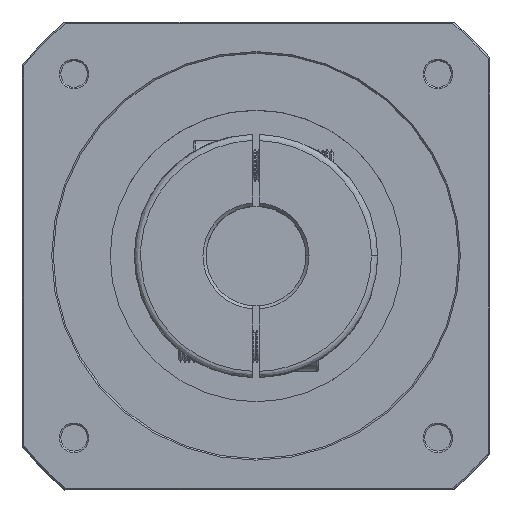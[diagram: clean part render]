
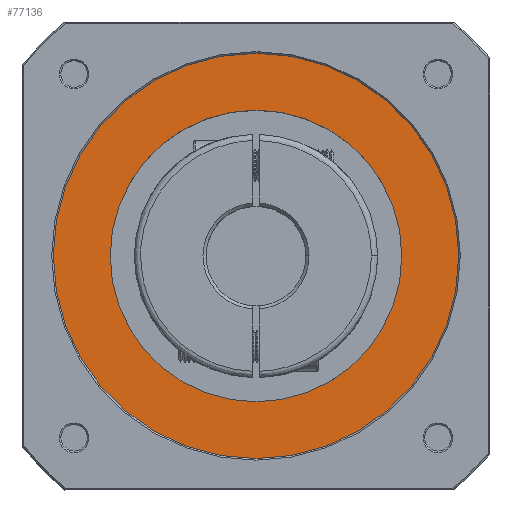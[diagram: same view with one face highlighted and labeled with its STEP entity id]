
A CAD part, top view. The second image highlights one B-rep face of the part: STEP entity #77136.
In plain terms, the highlighted planar face has unit normal (0, 0, -1).
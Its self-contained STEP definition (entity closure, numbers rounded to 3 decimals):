
#1294 = CARTESIAN_POINT ( 'NONE',  ( 0., 0., 285.5 ) ) ;
#2503 = CARTESIAN_POINT ( 'NONE',  ( 0., 0., 285.5 ) ) ;
#3344 = CARTESIAN_POINT ( 'NONE',  ( 46.75, 0., 285.5 ) ) ;
#6604 = PLANE ( 'NONE',  #99808 ) ;
#9445 = DIRECTION ( 'NONE',  ( -1., 0., 0. ) ) ;
#10371 = VERTEX_POINT ( 'NONE', #3344 ) ;
#10643 = DIRECTION ( 'NONE',  ( -1., 0., 0. ) ) ;
#11714 = EDGE_CURVE ( 'NONE', #95752, #10371, #31612, .T. ) ;
#11933 = EDGE_LOOP ( 'NONE', ( #58901, #87054 ) ) ;
#13545 = CIRCLE ( 'NONE', #16747, 46.75 ) ;
#16747 = AXIS2_PLACEMENT_3D ( 'NONE', #2503, #59023, #10643 ) ;
#23358 = CARTESIAN_POINT ( 'NONE',  ( 65., 0., 285.5 ) ) ;
#24292 = EDGE_CURVE ( 'NONE', #80722, #67984, #45572, .T. ) ;
#31612 = CIRCLE ( 'NONE', #101261, 46.75 ) ;
#31800 = CARTESIAN_POINT ( 'NONE',  ( -65., 0., 285.5 ) ) ;
#36093 = DIRECTION ( 'NONE',  ( 0., 0., -1. ) ) ;
#39112 = CARTESIAN_POINT ( 'NONE',  ( -65.78, -65.78, 285.5 ) ) ;
#40539 = AXIS2_PLACEMENT_3D ( 'NONE', #94300, #46054, #102383 ) ;
#45572 = CIRCLE ( 'NONE', #101423, 65. ) ;
#46054 = DIRECTION ( 'NONE',  ( 0., 0., -1. ) ) ;
#47264 = DIRECTION ( 'NONE',  ( 1., 0., 0. ) ) ;
#57818 = DIRECTION ( 'NONE',  ( 0., 0., 1. ) ) ;
#58901 = ORIENTED_EDGE ( 'NONE', *, *, #11714, .T. ) ;
#59023 = DIRECTION ( 'NONE',  ( 0., 0., 1. ) ) ;
#61808 = CARTESIAN_POINT ( 'NONE',  ( -46.75, 0., 285.5 ) ) ;
#67984 = VERTEX_POINT ( 'NONE', #31800 ) ;
#69136 = EDGE_CURVE ( 'NONE', #67984, #80722, #73748, .T. ) ;
#73748 = CIRCLE ( 'NONE', #40539, 65. ) ;
#74586 = ORIENTED_EDGE ( 'NONE', *, *, #24292, .T. ) ;
#76478 = FACE_OUTER_BOUND ( 'NONE', #83684, .T. ) ;
#77136 = ADVANCED_FACE ( 'NONE', ( #78985, #76478 ), #6604, .F. ) ;
#78985 = FACE_BOUND ( 'NONE', #11933, .T. ) ;
#80722 = VERTEX_POINT ( 'NONE', #23358 ) ;
#83684 = EDGE_LOOP ( 'NONE', ( #74586, #85062 ) ) ;
#84446 = CARTESIAN_POINT ( 'NONE',  ( 0., 0., 285.5 ) ) ;
#85062 = ORIENTED_EDGE ( 'NONE', *, *, #69136, .T. ) ;
#87054 = ORIENTED_EDGE ( 'NONE', *, *, #95601, .T. ) ;
#92498 = DIRECTION ( 'NONE',  ( 1., 0., 0. ) ) ;
#94300 = CARTESIAN_POINT ( 'NONE',  ( 0., 0., 285.5 ) ) ;
#95487 = DIRECTION ( 'NONE',  ( 0., 0., 1. ) ) ;
#95601 = EDGE_CURVE ( 'NONE', #10371, #95752, #13545, .T. ) ;
#95752 = VERTEX_POINT ( 'NONE', #61808 ) ;
#99808 = AXIS2_PLACEMENT_3D ( 'NONE', #39112, #95487, #47264 ) ;
#101261 = AXIS2_PLACEMENT_3D ( 'NONE', #1294, #57818, #9445 ) ;
#101423 = AXIS2_PLACEMENT_3D ( 'NONE', #84446, #36093, #92498 ) ;
#102383 = DIRECTION ( 'NONE',  ( 1., 0., 0. ) ) ;
